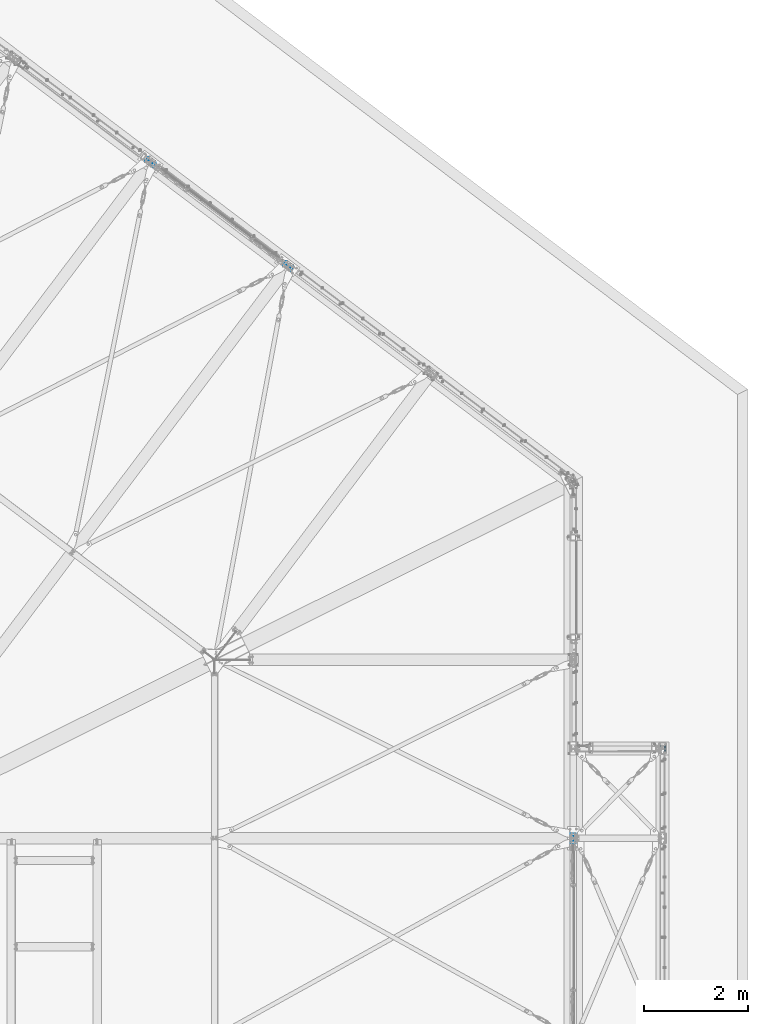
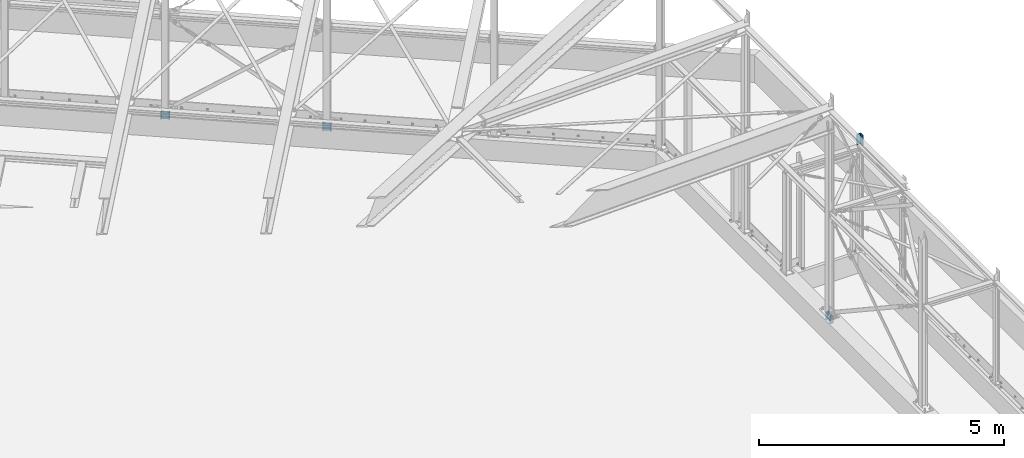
# One storey, part 10 of 476: 4 columns, 6 openings.
"""IFC2X3 building model written with IfcOpenShell, lengths in millimetres."""

from ifc_helpers import new_model, entity, si_unit, converted_unit, frame, frame_2d, origin, origin_with_axes, origin_2d, origin_2d_with_axis, place, context, project, spatial, circle, i_section, l_section, extrude, material, element, save


model = new_model("IFC2X3")

# Units and contexts
model_context = context("Model", 3, precision=1e-09, world=origin_with_axes())
ifc_project = project(units=[si_unit("LENGTHUNIT", "METRE", prefix="MILLI"), si_unit("AREAUNIT", "SQUARE_METRE"), si_unit("VOLUMEUNIT", "CUBIC_METRE"), converted_unit("PLANEANGLEUNIT", "DEGREE", entity("IfcPlaneAngleMeasure", 0.01745329), si_unit("PLANEANGLEUNIT", "RADIAN"), dimensions=[0, 0, 0, 0, 0, 0, 0])], contexts=[model_context])

# Site, building, storey
site_placement = place(None, origin_with_axes())
site = spatial("IfcSite", under=ifc_project, at=site_placement, Name="mKR Teilneubau & Sanierung BA1 - Ostfildern", CompositionType="ELEMENT")
building_placement = place(site_placement, origin_with_axes())
building = spatial("IfcBuilding", under=site, at=building_placement, Name="Struktur 1", CompositionType="ELEMENT")
storey_placement = place(building_placement, origin_with_axes())
storey = spatial("IfcBuildingStorey", under=building, at=storey_placement, Name="Default Storey", CompositionType="ELEMENT", Elevation=0.0)

# Column
ifc_material = material(Name="S235JR")
column_1_placement = place(None, frame((23705.408764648, -4196.87387897, 3066.000000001), z_axis=(0.0, 0.0, -1.0), x_axis=(0.0, -1.0, 0.0)))
element("IfcColumn", 1, at=column_1_placement, inside=storey, material=ifc_material, Name="-", ObjectType="-", context=model_context, shape_type="SweptSolid", body=[
    extrude(l_section(Depth=100.0, Width=100.0, Thickness=10.0, FilletRadius=12.0, EdgeRadius=6.0, at=frame_2d((21.8, 21.8))), origin(), (0.0, 0.0, -1.0), 270.0),
])

# Column, openings
column_2_placement = place(None, frame((16483.34493983, 5062.922938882, 530.0), z_axis=(0.0, 0.0, 1.0), x_axis=(0.602734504, 0.797941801, 0.0)))
column_2 = element("IfcColumn", 2, at=column_2_placement, inside=storey, material=ifc_material, Name="AnchorBeam", ObjectType="AnchorBeam", context=model_context, shape_type="SweptSolid", body=[
    extrude(i_section(OverallWidth=91.0, OverallDepth=180.0, WebThickness=5.3, FlangeThickness=8.0, FilletRadius=9.0, at=origin_2d()), origin(), (0.0, 0.0, -1.0), 200.0),
])
opening_1_placement = place(column_2_placement, frame((-3.15, 65.0, -15.0), z_axis=(1.0, 0.0, 0.0), x_axis=(0.0, 0.0, -1.0)))
element("IfcOpeningElement", 3, at=opening_1_placement, cuts=column_2, ObjectType="Opening", context=model_context, shape_type="SweptSolid", body=[
    extrude(circle(Radius=6.001, at=origin_2d_with_axis()), origin(), (0.0, 0.0, 1.0), 6.3),
])
opening_2_placement = place(column_2_placement, frame((-3.15, -65.0, -15.0), z_axis=(1.0, 0.0, 0.0), x_axis=(0.0, 0.0, -1.0)))
element("IfcOpeningElement", 4, at=opening_2_placement, cuts=column_2, ObjectType="Opening", context=model_context, shape_type="SweptSolid", body=[
    extrude(circle(Radius=6.001, at=origin_2d_with_axis()), origin(), (0.0, 0.0, 1.0), 6.3),
])

column_3_placement = place(None, frame((13829.28745757, 7067.695738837, 530.0), z_axis=(0.0, 0.0, 1.0), x_axis=(0.602734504, 0.797941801, 0.0)))
column_3 = element("IfcColumn", 5, at=column_3_placement, inside=storey, material=ifc_material, Name="AnchorBeam", ObjectType="AnchorBeam", context=model_context, shape_type="SweptSolid", body=[
    extrude(i_section(OverallWidth=91.0, OverallDepth=180.0, WebThickness=5.3, FlangeThickness=8.0, FilletRadius=9.0, at=origin_2d()), origin(), (0.0, 0.0, -1.0), 200.0),
])
opening_3_placement = place(column_3_placement, frame((-3.15, 65.0, -15.0), z_axis=(1.0, 0.0, 0.0), x_axis=(0.0, 0.0, -1.0)))
element("IfcOpeningElement", 6, at=opening_3_placement, cuts=column_3, ObjectType="Opening", context=model_context, shape_type="SweptSolid", body=[
    extrude(circle(Radius=6.001, at=origin_2d_with_axis()), origin(), (0.0, 0.0, 1.0), 6.3),
])
opening_4_placement = place(column_3_placement, frame((-3.15, -65.0, -15.0), z_axis=(1.0, 0.0, 0.0), x_axis=(0.0, 0.0, -1.0)))
element("IfcOpeningElement", 7, at=opening_4_placement, cuts=column_3, ObjectType="Opening", context=model_context, shape_type="SweptSolid", body=[
    extrude(circle(Radius=6.001, at=origin_2d_with_axis()), origin(), (0.0, 0.0, 1.0), 6.3),
])

column_4_placement = place(None, frame((21965.608764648, -5945.67387897, 530.0), z_axis=(0.0, 0.0, 1.0), x_axis=(1.0, 0.0, 0.0)))
column_4 = element("IfcColumn", 8, at=column_4_placement, inside=storey, material=ifc_material, Name="AnchorBeam", ObjectType="AnchorBeam", context=model_context, shape_type="SweptSolid", body=[
    extrude(i_section(OverallWidth=91.0, OverallDepth=180.0, WebThickness=5.3, FlangeThickness=8.0, FilletRadius=9.0, at=origin_2d()), origin(), (0.0, 0.0, -1.0), 200.0),
])
opening_5_placement = place(column_4_placement, frame((-3.15, 65.0, -15.0), z_axis=(1.0, 0.0, 0.0), x_axis=(0.0, 0.0, -1.0)))
element("IfcOpeningElement", 9, at=opening_5_placement, cuts=column_4, ObjectType="Opening", context=model_context, shape_type="SweptSolid", body=[
    extrude(circle(Radius=6.001, at=origin_2d_with_axis()), origin(), (0.0, 0.0, 1.0), 6.3),
])
opening_6_placement = place(column_4_placement, frame((-3.15, -65.0, -15.0), z_axis=(1.0, 0.0, 0.0), x_axis=(0.0, 0.0, -1.0)))
element("IfcOpeningElement", 10, at=opening_6_placement, cuts=column_4, ObjectType="Opening", context=model_context, shape_type="SweptSolid", body=[
    extrude(circle(Radius=6.001, at=origin_2d_with_axis()), origin(), (0.0, 0.0, 1.0), 6.3),
])

save(model, "model.ifc")
